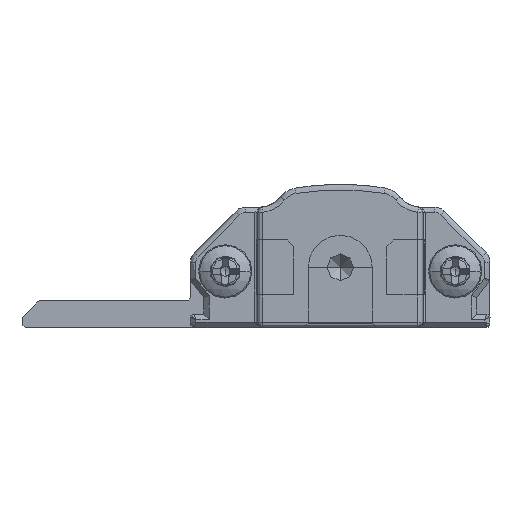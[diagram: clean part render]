
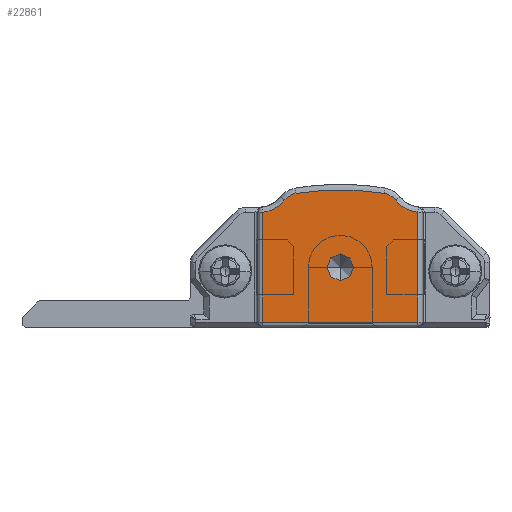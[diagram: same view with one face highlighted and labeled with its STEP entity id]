
A CAD part, front view. The second image highlights one B-rep face of the part: STEP entity #22861.
In plain terms, the highlighted planar face has unit normal (0, -1, 0).
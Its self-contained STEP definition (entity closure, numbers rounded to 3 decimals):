
#215 = LINE ( 'NONE', #24224, #1631 ) ;
#679 = VERTEX_POINT ( 'NONE', #25442 ) ;
#737 = DIRECTION ( 'NONE',  ( 0., 0., -1. ) ) ;
#976 = VERTEX_POINT ( 'NONE', #13176 ) ;
#1425 = DIRECTION ( 'NONE',  ( 0., -1., 0. ) ) ;
#1631 = VECTOR ( 'NONE', #9911, 1000. ) ;
#1681 = PLANE ( 'NONE',  #12004 ) ;
#1701 = DIRECTION ( 'NONE',  ( 0., 0., -1. ) ) ;
#2267 = EDGE_CURVE ( 'NONE', #4106, #27594, #16045, .T. ) ;
#2393 = CARTESIAN_POINT ( 'NONE',  ( 14.3, -15., 8.75 ) ) ;
#2557 = LINE ( 'NONE', #15118, #23278 ) ;
#2687 = EDGE_CURVE ( 'NONE', #976, #679, #17017, .T. ) ;
#3016 = ORIENTED_EDGE ( 'NONE', *, *, #13889, .T. ) ;
#3158 = DIRECTION ( 'NONE',  ( 0., -1., 0. ) ) ;
#3663 = CARTESIAN_POINT ( 'NONE',  ( 14.508, -15., 10.034 ) ) ;
#4049 = AXIS2_PLACEMENT_3D ( 'NONE', #30788, #9051, #24136 ) ;
#4106 = VERTEX_POINT ( 'NONE', #5531 ) ;
#4158 = ORIENTED_EDGE ( 'NONE', *, *, #21866, .T. ) ;
#4261 = DIRECTION ( 'NONE',  ( 0., -1., 0. ) ) ;
#4848 = DIRECTION ( 'NONE',  ( 0., 0., -1. ) ) ;
#5126 = AXIS2_PLACEMENT_3D ( 'NONE', #2393, #19894, #22102 ) ;
#5531 = CARTESIAN_POINT ( 'NONE',  ( 7.068, -15., 9.541 ) ) ;
#6252 = AXIS2_PLACEMENT_3D ( 'NONE', #28293, #1425, #6540 ) ;
#6540 = DIRECTION ( 'NONE',  ( 0., 0., -1. ) ) ;
#6616 = DIRECTION ( 'NONE',  ( 0., 1., 0. ) ) ;
#8233 = ORIENTED_EDGE ( 'NONE', *, *, #28629, .T. ) ;
#8789 = CARTESIAN_POINT ( 'NONE',  ( 5.162, -15., 11. ) ) ;
#8829 = EDGE_CURVE ( 'NONE', #679, #976, #19080, .T. ) ;
#8845 = DIRECTION ( 'NONE',  ( 0., -1., 0. ) ) ;
#8914 = AXIS2_PLACEMENT_3D ( 'NONE', #13956, #4261, #1701 ) ;
#9051 = DIRECTION ( 'NONE',  ( 0., -1., 0. ) ) ;
#9219 = ORIENTED_EDGE ( 'NONE', *, *, #14956, .T. ) ;
#9797 = CIRCLE ( 'NONE', #6252, 1.3 ) ;
#9911 = DIRECTION ( 'NONE',  ( 0., 0., 1. ) ) ;
#10320 = VERTEX_POINT ( 'NONE', #29296 ) ;
#10445 = CARTESIAN_POINT ( 'NONE',  ( 5.4, -15., 0.4 ) ) ;
#10788 = VERTEX_POINT ( 'NONE', #25992 ) ;
#11029 = DIRECTION ( 'NONE',  ( 0., 1., 0. ) ) ;
#11823 = VERTEX_POINT ( 'NONE', #3663 ) ;
#12004 = AXIS2_PLACEMENT_3D ( 'NONE', #21077, #8845, #30737 ) ;
#12849 = EDGE_CURVE ( 'NONE', #11823, #10788, #15187, .T. ) ;
#12867 = AXIS2_PLACEMENT_3D ( 'NONE', #26126, #6616, #4848 ) ;
#12969 = ORIENTED_EDGE ( 'NONE', *, *, #23817, .T. ) ;
#13022 = DIRECTION ( 'NONE',  ( 0., 0., -1. ) ) ;
#13176 = CARTESIAN_POINT ( 'NONE',  ( 11.2, -15., 5.5 ) ) ;
#13326 = FACE_BOUND ( 'NONE', #20707, .T. ) ;
#13330 = ORIENTED_EDGE ( 'NONE', *, *, #15200, .T. ) ;
#13889 = EDGE_CURVE ( 'NONE', #10320, #18899, #215, .T. ) ;
#13956 = CARTESIAN_POINT ( 'NONE',  ( 11.2, -15., 4.5 ) ) ;
#14900 = VECTOR ( 'NONE', #737, 1000. ) ;
#14956 = EDGE_CURVE ( 'NONE', #10788, #4106, #9797, .T. ) ;
#15118 = CARTESIAN_POINT ( 'NONE',  ( 17., -15., 0.4 ) ) ;
#15187 = CIRCLE ( 'NONE', #4049, 20.676 ) ;
#15200 = EDGE_CURVE ( 'NONE', #18899, #25683, #26549, .T. ) ;
#16045 = CIRCLE ( 'NONE', #29244, 2.4 ) ;
#17017 = CIRCLE ( 'NONE', #8914, 1. ) ;
#17376 = EDGE_LOOP ( 'NONE', ( #3016, #13330, #12969, #17544, #9219, #18652, #4158, #8233 ) ) ;
#17544 = ORIENTED_EDGE ( 'NONE', *, *, #12849, .T. ) ;
#17683 = CARTESIAN_POINT ( 'NONE',  ( 5.4, -15., 0.4 ) ) ;
#18006 = CARTESIAN_POINT ( 'NONE',  ( 15.332, -15., 9.541 ) ) ;
#18652 = ORIENTED_EDGE ( 'NONE', *, *, #2267, .T. ) ;
#18899 = VERTEX_POINT ( 'NONE', #20327 ) ;
#19080 = CIRCLE ( 'NONE', #28196, 1. ) ;
#19116 = CARTESIAN_POINT ( 'NONE',  ( 5.4, -15., 8.612 ) ) ;
#19894 = DIRECTION ( 'NONE',  ( 0., -1., 0. ) ) ;
#20327 = CARTESIAN_POINT ( 'NONE',  ( 17., -15., 8.612 ) ) ;
#20707 = EDGE_LOOP ( 'NONE', ( #22369, #30121 ) ) ;
#21077 = CARTESIAN_POINT ( 'NONE',  ( 22.15, -15., 3.606 ) ) ;
#21850 = CIRCLE ( 'NONE', #5126, 1.3 ) ;
#21866 = EDGE_CURVE ( 'NONE', #27594, #25516, #22840, .T. ) ;
#22102 = DIRECTION ( 'NONE',  ( 0., 0., -1. ) ) ;
#22369 = ORIENTED_EDGE ( 'NONE', *, *, #8829, .F. ) ;
#22840 = LINE ( 'NONE', #10445, #14900 ) ;
#22861 = ADVANCED_FACE ( 'NONE', ( #25383, #13326 ), #1681, .T. ) ;
#23278 = VECTOR ( 'NONE', #27038, 1000. ) ;
#23817 = EDGE_CURVE ( 'NONE', #25683, #11823, #21850, .T. ) ;
#23862 = CARTESIAN_POINT ( 'NONE',  ( 11.2, -15., 4.5 ) ) ;
#24136 = DIRECTION ( 'NONE',  ( 0., 0., -1. ) ) ;
#24224 = CARTESIAN_POINT ( 'NONE',  ( 17., -15., 8.612 ) ) ;
#25383 = FACE_OUTER_BOUND ( 'NONE', #17376, .T. ) ;
#25442 = CARTESIAN_POINT ( 'NONE',  ( 11.2, -15., 3.5 ) ) ;
#25516 = VERTEX_POINT ( 'NONE', #17683 ) ;
#25635 = DIRECTION ( 'NONE',  ( 0., 0., -1. ) ) ;
#25683 = VERTEX_POINT ( 'NONE', #18006 ) ;
#25992 = CARTESIAN_POINT ( 'NONE',  ( 7.892, -15., 10.034 ) ) ;
#26126 = CARTESIAN_POINT ( 'NONE',  ( 17.238, -15., 11. ) ) ;
#26549 = CIRCLE ( 'NONE', #12867, 2.4 ) ;
#27038 = DIRECTION ( 'NONE',  ( 1., 0., 0. ) ) ;
#27594 = VERTEX_POINT ( 'NONE', #19116 ) ;
#28196 = AXIS2_PLACEMENT_3D ( 'NONE', #23862, #3158, #13022 ) ;
#28293 = CARTESIAN_POINT ( 'NONE',  ( 8.1, -15., 8.75 ) ) ;
#28629 = EDGE_CURVE ( 'NONE', #25516, #10320, #2557, .T. ) ;
#29244 = AXIS2_PLACEMENT_3D ( 'NONE', #8789, #11029, #25635 ) ;
#29296 = CARTESIAN_POINT ( 'NONE',  ( 17., -15., 0.4 ) ) ;
#30121 = ORIENTED_EDGE ( 'NONE', *, *, #2687, .F. ) ;
#30737 = DIRECTION ( 'NONE',  ( 0., 0., -1. ) ) ;
#30788 = CARTESIAN_POINT ( 'NONE',  ( 11.2, -15., -10.376 ) ) ;
